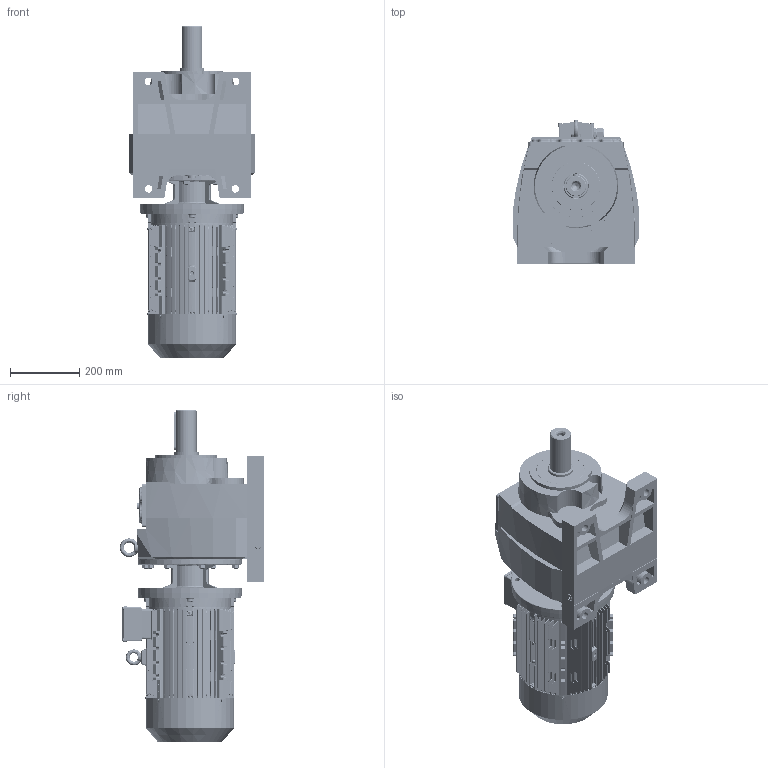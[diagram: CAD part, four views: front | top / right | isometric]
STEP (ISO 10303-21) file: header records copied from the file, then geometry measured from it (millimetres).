
FILE_DESCRIPTION (( 'STEP AP203' ), '1' );
FILE_NAME ('MV_573_0_MX-132M.STEP', '2018-11-27T08:29:07', ( '' ), ( '' ), 'SwSTEP 2.0', 'SolidWorks 2012', '' );
FILE_SCHEMA (( 'CONFIG_CONTROL_DESIGN' ));
Products named in the file (25): 132〩仁佞怔; 132〩仁佞蹉峔; -戌呲25; 132ÀþiÍ; 132M 俓; 132 瞬++-4; deep groove ball bearings gb_Rolling bearings 6308 GB 276-94_1; 132M B5+ｷ+ﾃ; ML3A_Varsayìlan; 132B3ﾂ-ｩﾃ; 53132B5_Varsayìlan; M573_Varsayìlan; ﾋ-ﾀﾔ40X58X7; MV_573_0_MX-132M; MX3-132M_B5; hexagon flange head tapping screws gb_GB_SQUARE_AND_HEXAGON_TYPE137 ST4.2X9.5 C-N; circlips for shaft--type a large gb_GB_CONNECTING_PIECE_RING_RRA 28; cross recessed pan head screws gb_GB_CROSS_SCREWS_TYPE1 M5X12-12  H type-N_1; spring lock washers--normal type gb_GB_FASTENER_WASHER_SW 8_1; hex nuts, style 1-grades ab gb_GB_FASTENER_NUT_SNAB1 M8-N; hexagon socket head cap screws gb_GB_FASTENER_SCREWS_HSHCS M8X40-N_1; 132M B5ﾂ-ｩﾃ; eyebolts gb_GB_FASTENER_SCREWS_FRS M10-N_1; plain parallel keys_GB_CONNECTING_PIECE_KEYS_CSK 10X70_1; hexagon socket head cap screws gb_GB_FASTENER_SCREWS_HSHCS M8X45-N
Assembly tree (52 placements, depth 3):
  MV_573_0_MX-132M
    M573_Varsayìlan
    53132B5_Varsayìlan
    ML3A_Varsayìlan
    MX3-132M_B5
      132M B5+ｷ+ﾃ
      132B3ﾂ-ｩﾃ
      132M 俓
      deep groove ball bearings gb_Rolling bearings 6308 GB 276-94_1  x2
      132 瞬++-4
      132ÀþiÍ
      132〩仁佞蹉峔
      132〩仁佞怔
      -戌呲25  x2
      ﾋ-ﾀﾔ40X58X7
      plain parallel keys_GB_CONNECTING_PIECE_KEYS_CSK 10X70_1
      eyebolts gb_GB_FASTENER_SCREWS_FRS M10-N_1
      132M B5ﾂ-ｩﾃ
      hexagon socket head cap screws gb_GB_FASTENER_SCREWS_HSHCS M8X45-N  x4
      spring lock washers--normal type gb_GB_FASTENER_WASHER_SW 8_1  x8
      hex nuts, style 1-grades ab gb_GB_FASTENER_NUT_SNAB1 M8-N  x7
      hexagon socket head cap screws gb_GB_FASTENER_SCREWS_HSHCS M8X40-N_1  x5
      circlips for shaft--type a large gb_GB_CONNECTING_PIECE_RING_RRA 28
      hexagon flange head tapping screws gb_GB_SQUARE_AND_HEXAGON_TYPE137 ST4.2X9.5 C-N  x4
      cross recessed pan head screws gb_GB_CROSS_SCREWS_TYPE1 M5X12-12  H type-N_1  x4
Bounding box: 366 x 416.8 x 958.12 mm (x, y, z)
Volume: 34927265.7 mm3; surface area: 3096959.6 mm2
Topology: 52 solids, 54 shells, 8333 faces, 21440 edges, 13095 vertices
Faces by surface type: plane 2687, bspline 2204, cylinder 2118, cone 808, torus 378, sphere 138
Entity records: 316866 total; most frequent: CARTESIAN_POINT 145600, ORIENTED_EDGE 38806, DIRECTION 29748, EDGE_CURVE 19403, VERTEX_POINT 11940, AXIS2_PLACEMENT_3D 10937, EDGE_LOOP 8341, VECTOR 7874
